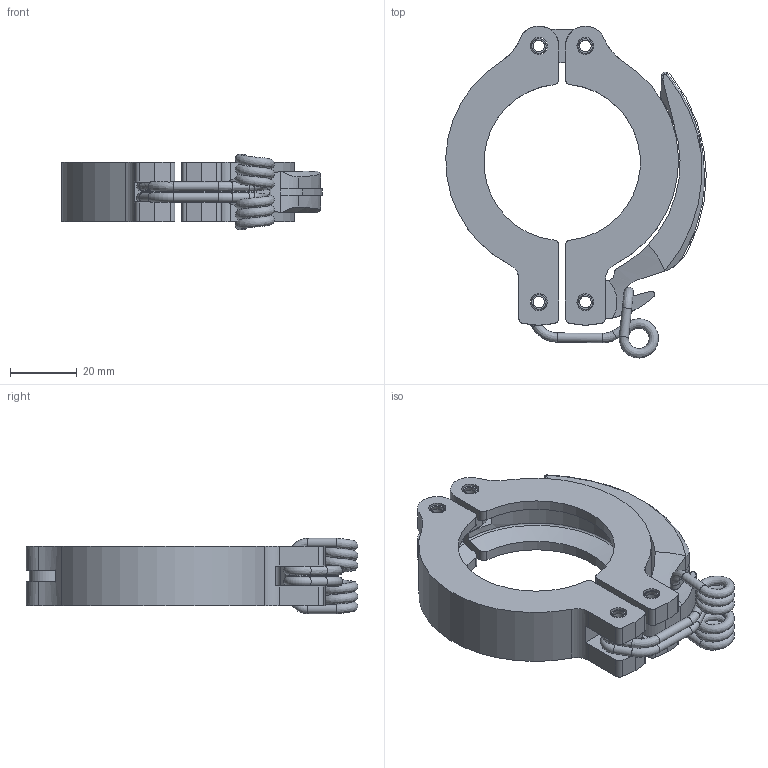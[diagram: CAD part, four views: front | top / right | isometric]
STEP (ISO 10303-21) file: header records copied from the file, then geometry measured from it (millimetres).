
FILE_DESCRIPTION((''),'2;1');
FILE_NAME('W:\211-038\M18348.stp','2006-03-02T15:33:05',('KAA'),(''),'Autodesk Inventor 10','Autodesk Inventor 10','');
FILE_SCHEMA(('AUTOMOTIVE_DESIGN { 1 0 10303 214 1 1 1 1 }'));
Length unit declared in the file: millimetre
Products named in the file (1): 211-038
Bounding box: 78.29 x 99.78 x 22.69 mm (x, y, z)
Volume: 42039 mm3; surface area: 25085.1 mm2
Topology: 6 solids, 6 shells, 194 faces, 517 edges, 331 vertices
Faces by surface type: cylinder 75, plane 65, cone 23, bspline 18, torus 13
Full cylindrical faces by diameter (mm): 2.8 x4, 4.16 x4, 5 x4, 5.1 x8, 5.4 x1, 5.5 x2
Entity records: 8187 total; most frequent: CARTESIAN_POINT 3574, DIRECTION 950, ORIENTED_EDGE 916, EDGE_CURVE 458, AXIS2_PLACEMENT_3D 381, VERTEX_POINT 322, EDGE_LOOP 272, CIRCLE 198
